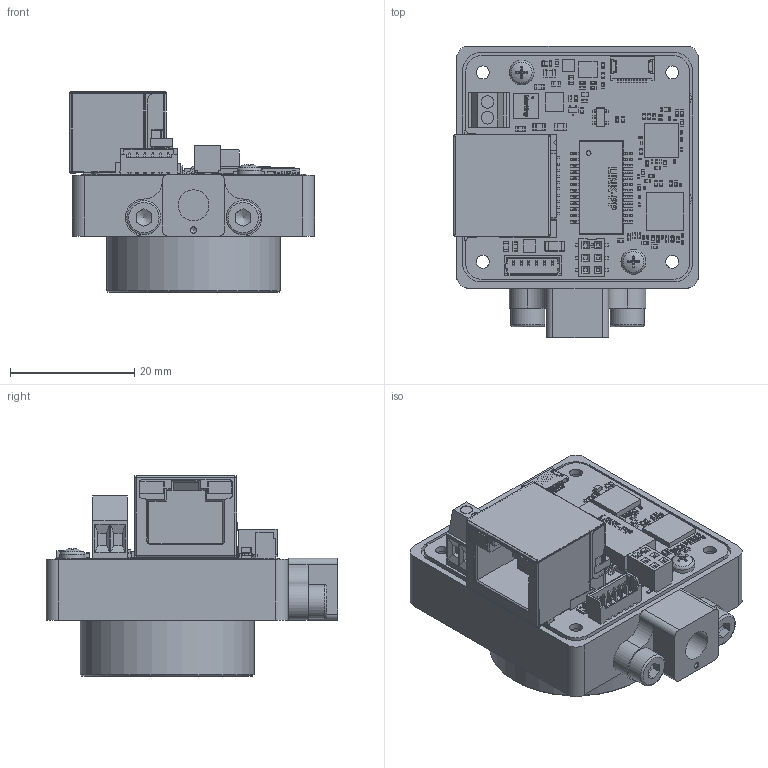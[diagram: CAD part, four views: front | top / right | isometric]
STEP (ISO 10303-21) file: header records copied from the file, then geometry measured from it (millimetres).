
FILE_DESCRIPTION(/* description */ (''),/* implementation_level */ '2;1');
FILE_NAME(/* name */ 'KSM_308-24-03-00-00_ZB C-MountKamera_GigE-4SB_IMX900.stp',/* time_stamp */ '2025-02-26T20:30:08+01:00',/* author */ ('khw'),/* organization */ ('TIS/ Germany'),/* preprocessor_version */ 'ST-DEVELOPER v20',/* originating_system */ 'Autodesk Inventor 2025',/* authorisation */ '520025 mm^3');
FILE_SCHEMA (('AUTOMOTIVE_DESIGN { 1 0 10303 214 3 1 1 }'));
Length unit declared in the file: millimetre
Products named in the file (4): KSM_308-24-03-00-00_ZB C-MountKamera_GigE-4SB_IMX900; 2_308-24-03-00-00_ZB C-MountKamera_GigE-4SB_IMX900; TripodAdapter 14-20-UNC; Zylinderschraube M3x6
Assembly tree (4 placements, depth 2):
  KSM_308-24-03-00-00_ZB C-MountKamera_GigE-4SB_IMX900
    2_308-24-03-00-00_ZB C-MountKamera_GigE-4SB_IMX900
    TripodAdapter 14-20-UNC
    Zylinderschraube M3x6  x2
Bounding box: 39.49 x 47 x 32.26 mm (x, y, z)
Volume: 16848.9 mm3; surface area: 14825.7 mm2
Topology: 12 solids, 12 shells, 8288 faces, 20333 edges, 11431 vertices
Faces by surface type: plane 3878, cylinder 3003, torus 670, sphere 666, cone 37, bspline 34
Full cylindrical faces by diameter (mm): 0.3 x1, 0.5 x6, 0.739 x1, 1 x1, 1.05 x2, 1.2 x2, 1.567 x2, 2.032 x2, 2.1 x4, 2.459 x8, 3 x2, 3.2 x2, 4.978 x1, 5.5 x2, 24.536 x1, 28 x1
Entity records: 243395 total; most frequent: DIRECTION 42178, CARTESIAN_POINT 40948, ORIENTED_EDGE 39246, EDGE_CURVE 19623, AXIS2_PLACEMENT_3D 14427, LINE 13324, VECTOR 13324, VERTEX_POINT 11407
